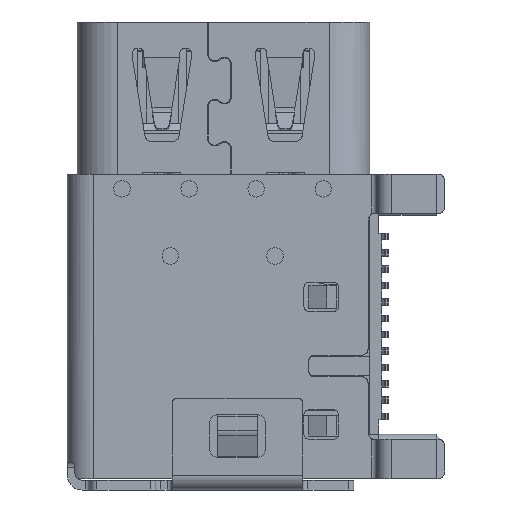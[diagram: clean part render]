
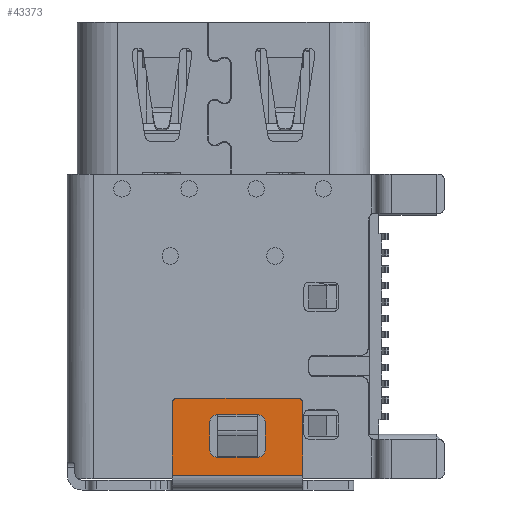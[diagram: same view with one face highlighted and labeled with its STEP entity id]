
A CAD part, left-side view. The second image highlights one B-rep face of the part: STEP entity #43373.
In plain terms, the highlighted planar face has unit normal (-1, 0, 0).
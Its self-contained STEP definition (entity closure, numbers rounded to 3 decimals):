
#2602 = ORIENTED_EDGE ( 'NONE', *, *, #38028, .F. ) ;
#2692 = ORIENTED_EDGE ( 'NONE', *, *, #12060, .F. ) ;
#2800 = EDGE_CURVE ( 'NONE', #70832, #35953, #83154, .T. ) ;
#3772 = EDGE_CURVE ( 'NONE', #28747, #70832, #36146, .T. ) ;
#4192 = DIRECTION ( 'NONE',  ( 1., 0., 0. ) ) ;
#4806 = ORIENTED_EDGE ( 'NONE', *, *, #17670, .F. ) ;
#5752 = VERTEX_POINT ( 'NONE', #20109 ) ;
#5896 = DIRECTION ( 'NONE',  ( 0., 1., 0. ) ) ;
#5957 = EDGE_LOOP ( 'NONE', ( #31214, #10075, #8058, #39881, #65828, #2692, #80474, #80002 ) ) ;
#6170 = ORIENTED_EDGE ( 'NONE', *, *, #75595, .F. ) ;
#8058 = ORIENTED_EDGE ( 'NONE', *, *, #18504, .F. ) ;
#9058 = CARTESIAN_POINT ( 'NONE',  ( -2.29, -7.322, -40.515 ) ) ;
#9405 = CARTESIAN_POINT ( 'NONE',  ( -2.29, -7.322, -41.815 ) ) ;
#9450 = CARTESIAN_POINT ( 'NONE',  ( -2.29, -8.722, -40.165 ) ) ;
#9621 = CIRCLE ( 'NONE', #16584, 0.25 ) ;
#10075 = ORIENTED_EDGE ( 'NONE', *, *, #34893, .F. ) ;
#12060 = EDGE_CURVE ( 'NONE', #35953, #17607, #58631, .T. ) ;
#14123 = VERTEX_POINT ( 'NONE', #73912 ) ;
#14640 = DIRECTION ( 'NONE',  ( 0., -1., 0. ) ) ;
#15705 = CARTESIAN_POINT ( 'NONE',  ( -2.29, -4.872, -40.015 ) ) ;
#15835 = VERTEX_POINT ( 'NONE', #39728 ) ;
#16085 = DIRECTION ( 'NONE',  ( 0., 0., -1. ) ) ;
#16564 = VECTOR ( 'NONE', #45927, 1000. ) ;
#16584 = AXIS2_PLACEMENT_3D ( 'NONE', #27599, #33170, #28032 ) ;
#16979 = CIRCLE ( 'NONE', #69802, 0.15 ) ;
#17191 = DIRECTION ( 'NONE',  ( 0., 0., -1. ) ) ;
#17607 = VERTEX_POINT ( 'NONE', #24236 ) ;
#17670 = EDGE_CURVE ( 'NONE', #45520, #71815, #18683, .T. ) ;
#18504 = EDGE_CURVE ( 'NONE', #5752, #37741, #47374, .T. ) ;
#18683 = LINE ( 'NONE', #31470, #37628 ) ;
#19064 = CARTESIAN_POINT ( 'NONE',  ( -2.29, -8.722, -42.465 ) ) ;
#19971 = LINE ( 'NONE', #26771, #16564 ) ;
#20109 = CARTESIAN_POINT ( 'NONE',  ( -2.29, -6.122, -41.815 ) ) ;
#21606 = LINE ( 'NONE', #72911, #36139 ) ;
#23150 = FACE_BOUND ( 'NONE', #5957, .T. ) ;
#23556 = PLANE ( 'NONE',  #39993 ) ;
#24236 = CARTESIAN_POINT ( 'NONE',  ( -2.29, -5.872, -40.765 ) ) ;
#26771 = CARTESIAN_POINT ( 'NONE',  ( -2.29, -7.572, -42.465 ) ) ;
#27599 = CARTESIAN_POINT ( 'NONE',  ( -2.29, -7.322, -41.565 ) ) ;
#28032 = DIRECTION ( 'NONE',  ( 0., 0., 1. ) ) ;
#28747 = VERTEX_POINT ( 'NONE', #51039 ) ;
#30263 = ORIENTED_EDGE ( 'NONE', *, *, #36667, .F. ) ;
#30902 = EDGE_CURVE ( 'NONE', #53321, #5752, #45980, .T. ) ;
#31036 = CARTESIAN_POINT ( 'NONE',  ( -2.29, -7.322, -40.765 ) ) ;
#31067 = CARTESIAN_POINT ( 'NONE',  ( -2.29, -6.122, -41.565 ) ) ;
#31214 = ORIENTED_EDGE ( 'NONE', *, *, #66637, .F. ) ;
#31470 = CARTESIAN_POINT ( 'NONE',  ( -2.29, -4.722, -41.265 ) ) ;
#32283 = DIRECTION ( 'NONE',  ( 0., 1., 0. ) ) ;
#33170 = DIRECTION ( 'NONE',  ( -1., 0., 0. ) ) ;
#33975 = CARTESIAN_POINT ( 'NONE',  ( -2.29, -8.722, -42.365 ) ) ;
#34893 = EDGE_CURVE ( 'NONE', #37741, #15835, #9621, .T. ) ;
#35953 = VERTEX_POINT ( 'NONE', #63441 ) ;
#36139 = VECTOR ( 'NONE', #46285, 1000. ) ;
#36146 = CIRCLE ( 'NONE', #42950, 0.25 ) ;
#36667 = EDGE_CURVE ( 'NONE', #59014, #14123, #49592, .T. ) ;
#36976 = DIRECTION ( 'NONE',  ( 0., 0., 1. ) ) ;
#37628 = VECTOR ( 'NONE', #38283, 1000. ) ;
#37741 = VERTEX_POINT ( 'NONE', #9405 ) ;
#38028 = EDGE_CURVE ( 'NONE', #71815, #59014, #82025, .T. ) ;
#38169 = CARTESIAN_POINT ( 'NONE',  ( -2.29, -4.722, -42.365 ) ) ;
#38283 = DIRECTION ( 'NONE',  ( 0., 0., 1. ) ) ;
#39728 = CARTESIAN_POINT ( 'NONE',  ( -2.29, -7.572, -41.565 ) ) ;
#39881 = ORIENTED_EDGE ( 'NONE', *, *, #30902, .F. ) ;
#39993 = AXIS2_PLACEMENT_3D ( 'NONE', #75295, #56236, #17191 ) ;
#42207 = VERTEX_POINT ( 'NONE', #9450 ) ;
#42493 = VERTEX_POINT ( 'NONE', #33975 ) ;
#42950 = AXIS2_PLACEMENT_3D ( 'NONE', #31036, #76360, #36976 ) ;
#43142 = DIRECTION ( 'NONE',  ( -1., 0., 0. ) ) ;
#43265 = DIRECTION ( 'NONE',  ( 0., -1., 0. ) ) ;
#43373 = ADVANCED_FACE ( 'NONE', ( #23150, #49078 ), #23556, .F. ) ;
#44298 = VECTOR ( 'NONE', #14640, 1000. ) ;
#45520 = VERTEX_POINT ( 'NONE', #38169 ) ;
#45927 = DIRECTION ( 'NONE',  ( 0., 0., 1. ) ) ;
#45980 = CIRCLE ( 'NONE', #66244, 0.25 ) ;
#46285 = DIRECTION ( 'NONE',  ( 0., 0., -1. ) ) ;
#46511 = EDGE_CURVE ( 'NONE', #17607, #53321, #21606, .T. ) ;
#46639 = VECTOR ( 'NONE', #43265, 1000. ) ;
#47374 = LINE ( 'NONE', #71897, #44298 ) ;
#48217 = CARTESIAN_POINT ( 'NONE',  ( -2.29, -6.122, -40.765 ) ) ;
#49078 = FACE_OUTER_BOUND ( 'NONE', #60842, .T. ) ;
#49592 = LINE ( 'NONE', #57197, #46639 ) ;
#50839 = CARTESIAN_POINT ( 'NONE',  ( -2.29, -5.872, -41.565 ) ) ;
#51039 = CARTESIAN_POINT ( 'NONE',  ( -2.29, -7.572, -40.765 ) ) ;
#51386 = CARTESIAN_POINT ( 'NONE',  ( -2.29, -9.822, -40.515 ) ) ;
#51436 = DIRECTION ( 'NONE',  ( 0., 0., 1. ) ) ;
#52593 = CARTESIAN_POINT ( 'NONE',  ( -2.29, -8.722, -42.365 ) ) ;
#53321 = VERTEX_POINT ( 'NONE', #50839 ) ;
#54966 = AXIS2_PLACEMENT_3D ( 'NONE', #62322, #80557, #16085 ) ;
#55195 = ORIENTED_EDGE ( 'NONE', *, *, #78712, .F. ) ;
#55897 = AXIS2_PLACEMENT_3D ( 'NONE', #48217, #43142, #74025 ) ;
#56236 = DIRECTION ( 'NONE',  ( 1., 0., 0. ) ) ;
#57197 = CARTESIAN_POINT ( 'NONE',  ( -2.29, -9.822, -40.015 ) ) ;
#57291 = DIRECTION ( 'NONE',  ( 0., 0., -1. ) ) ;
#57688 = LINE ( 'NONE', #52593, #68063 ) ;
#57769 = DIRECTION ( 'NONE',  ( -1., 0., 0. ) ) ;
#58631 = CIRCLE ( 'NONE', #55897, 0.25 ) ;
#59014 = VERTEX_POINT ( 'NONE', #15705 ) ;
#60842 = EDGE_LOOP ( 'NONE', ( #4806, #79144, #6170, #55195, #30263, #2602 ) ) ;
#62322 = CARTESIAN_POINT ( 'NONE',  ( -2.29, -4.872, -40.165 ) ) ;
#63441 = CARTESIAN_POINT ( 'NONE',  ( -2.29, -6.122, -40.515 ) ) ;
#65828 = ORIENTED_EDGE ( 'NONE', *, *, #46511, .F. ) ;
#66244 = AXIS2_PLACEMENT_3D ( 'NONE', #31067, #57769, #51436 ) ;
#66637 = EDGE_CURVE ( 'NONE', #15835, #28747, #19971, .T. ) ;
#66882 = EDGE_CURVE ( 'NONE', #42493, #45520, #57688, .T. ) ;
#68063 = VECTOR ( 'NONE', #5896, 1000. ) ;
#69515 = CARTESIAN_POINT ( 'NONE',  ( -2.29, -8.572, -40.165 ) ) ;
#69802 = AXIS2_PLACEMENT_3D ( 'NONE', #69515, #4192, #76281 ) ;
#70674 = VECTOR ( 'NONE', #57291, 1000. ) ;
#70832 = VERTEX_POINT ( 'NONE', #9058 ) ;
#71815 = VERTEX_POINT ( 'NONE', #72262 ) ;
#71897 = CARTESIAN_POINT ( 'NONE',  ( -2.29, -9.822, -41.815 ) ) ;
#72262 = CARTESIAN_POINT ( 'NONE',  ( -2.29, -4.722, -40.165 ) ) ;
#72911 = CARTESIAN_POINT ( 'NONE',  ( -2.29, -5.872, -42.465 ) ) ;
#73912 = CARTESIAN_POINT ( 'NONE',  ( -2.29, -8.572, -40.015 ) ) ;
#74025 = DIRECTION ( 'NONE',  ( 0., 0., 1. ) ) ;
#75295 = CARTESIAN_POINT ( 'NONE',  ( -2.29, -9.822, -42.465 ) ) ;
#75595 = EDGE_CURVE ( 'NONE', #42207, #42493, #77199, .T. ) ;
#76281 = DIRECTION ( 'NONE',  ( 0., 0., -1. ) ) ;
#76360 = DIRECTION ( 'NONE',  ( -1., 0., 0. ) ) ;
#76565 = VECTOR ( 'NONE', #32283, 1000. ) ;
#77199 = LINE ( 'NONE', #19064, #70674 ) ;
#78712 = EDGE_CURVE ( 'NONE', #14123, #42207, #16979, .T. ) ;
#79144 = ORIENTED_EDGE ( 'NONE', *, *, #66882, .F. ) ;
#80002 = ORIENTED_EDGE ( 'NONE', *, *, #3772, .F. ) ;
#80474 = ORIENTED_EDGE ( 'NONE', *, *, #2800, .F. ) ;
#80557 = DIRECTION ( 'NONE',  ( 1., 0., 0. ) ) ;
#82025 = CIRCLE ( 'NONE', #54966, 0.15 ) ;
#83154 = LINE ( 'NONE', #51386, #76565 ) ;
